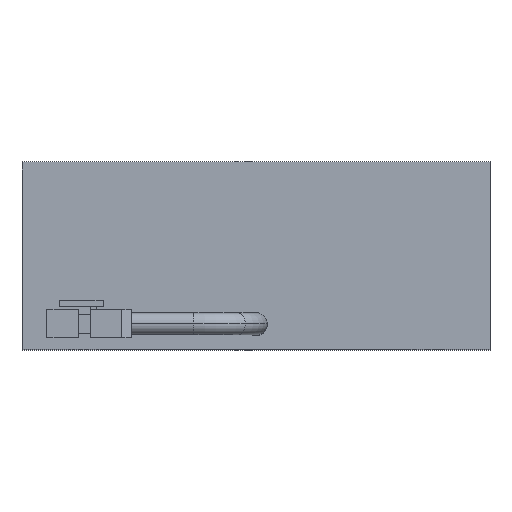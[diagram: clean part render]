
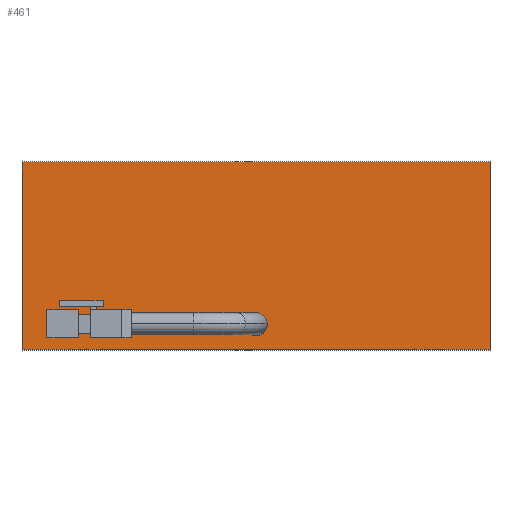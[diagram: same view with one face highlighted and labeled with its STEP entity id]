
A CAD part, top view. The second image highlights one B-rep face of the part: STEP entity #461.
In plain terms, the highlighted planar face has unit normal (0, 0, 1).
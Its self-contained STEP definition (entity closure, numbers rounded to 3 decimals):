
#461=ADVANCED_FACE('',(#638,#639),#589,.T.);
#589=PLANE('',#3440);
#638=FACE_BOUND('',#804,.T.);
#639=FACE_BOUND('',#805,.T.);
#804=EDGE_LOOP('',(#2188,#2189));
#805=EDGE_LOOP('',(#2190,#2191,#2192,#2193));
#1119=LINE('',#5398,#1438);
#1125=LINE('',#5413,#1444);
#1127=LINE('',#5417,#1446);
#1128=LINE('',#5423,#1447);
#1438=VECTOR('',#4225,1.);
#1444=VECTOR('',#4237,1.);
#1446=VECTOR('',#4241,1.);
#1447=VECTOR('',#4248,1.);
#2188=ORIENTED_EDGE('',*,*,#3027,.F.);
#2189=ORIENTED_EDGE('',*,*,#3028,.F.);
#2190=ORIENTED_EDGE('',*,*,#3029,.F.);
#2191=ORIENTED_EDGE('',*,*,#3024,.T.);
#2192=ORIENTED_EDGE('',*,*,#3016,.T.);
#2193=ORIENTED_EDGE('',*,*,#3026,.T.);
#2613=VERTEX_POINT('',#5397);
#2614=VERTEX_POINT('',#5399);
#2619=VERTEX_POINT('',#5412);
#2620=VERTEX_POINT('',#5416);
#2621=VERTEX_POINT('',#5420);
#2622=VERTEX_POINT('',#5421);
#3016=EDGE_CURVE('',#2614,#2613,#1119,.T.);
#3024=EDGE_CURVE('',#2619,#2614,#1125,.T.);
#3026=EDGE_CURVE('',#2613,#2620,#1127,.T.);
#3027=EDGE_CURVE('',#2621,#2622,#3184,.T.);
#3028=EDGE_CURVE('',#2622,#2621,#3185,.T.);
#3029=EDGE_CURVE('',#2619,#2620,#1128,.T.);
#3184=CIRCLE('',#3438,1.85);
#3185=CIRCLE('',#3439,1.85);
#3438=AXIS2_PLACEMENT_3D('',#5419,#4244,#4245);
#3439=AXIS2_PLACEMENT_3D('',#5422,#4246,#4247);
#3440=AXIS2_PLACEMENT_3D('',#5424,#4249,#4250);
#4225=DIRECTION('',(-1.,0.,0.));
#4237=DIRECTION('',(0.,1.,0.));
#4241=DIRECTION('',(0.,-1.,0.));
#4244=DIRECTION('',(0.,0.,1.));
#4245=DIRECTION('',(1.,0.,0.));
#4246=DIRECTION('',(0.,0.,1.));
#4247=DIRECTION('',(1.,0.,0.));
#4248=DIRECTION('',(-1.,0.,0.));
#4249=DIRECTION('',(0.,0.,1.));
#4250=DIRECTION('',(1.,0.,0.));
#5397=CARTESIAN_POINT('',(-37.5,30.,37.5));
#5398=CARTESIAN_POINT('',(0.,30.,37.5));
#5399=CARTESIAN_POINT('',(37.5,30.,37.5));
#5412=CARTESIAN_POINT('',(37.5,0.,37.5));
#5413=CARTESIAN_POINT('',(37.5,15.,37.5));
#5416=CARTESIAN_POINT('',(-37.5,0.,37.5));
#5417=CARTESIAN_POINT('',(-37.5,15.,37.5));
#5419=CARTESIAN_POINT('',(0.,4.,37.5));
#5420=CARTESIAN_POINT('',(-1.85,4.,37.5));
#5421=CARTESIAN_POINT('',(1.85,4.,37.5));
#5422=CARTESIAN_POINT('',(0.,4.,37.5));
#5423=CARTESIAN_POINT('',(0.,0.,37.5));
#5424=CARTESIAN_POINT('',(0.,15.,37.5));
